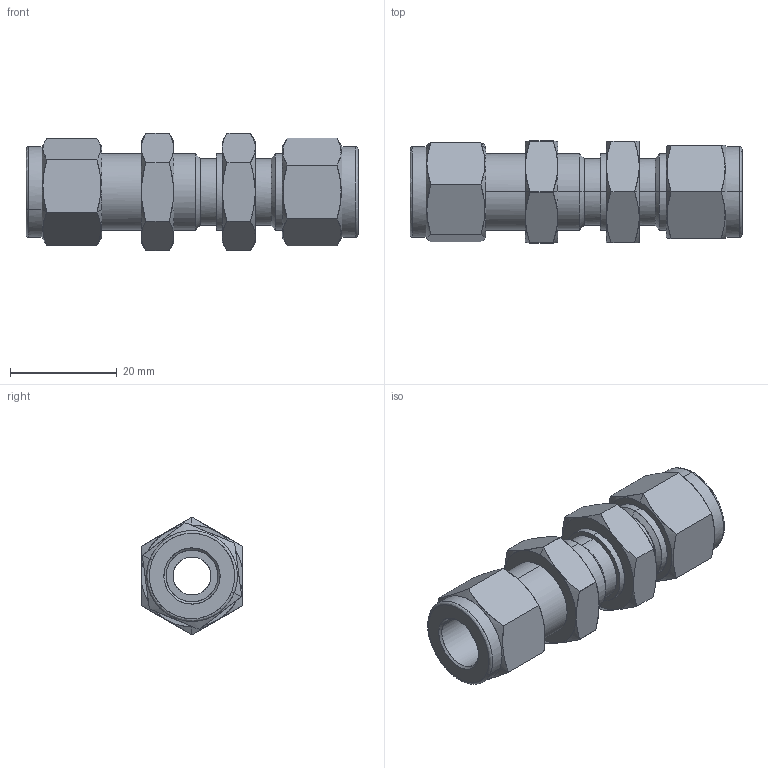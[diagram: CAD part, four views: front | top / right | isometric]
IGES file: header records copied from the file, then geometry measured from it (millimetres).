
Start section: Comment
Global section: file name: SBHU-6.igs; native system:  By UGS Corp.; preprocessor: XPlus GENERIC/IGES 3.0; author: Author; organization: Title; date: 20100528.112424; units: millimetre
Bounding box: 62.23 x 19.1 x 22 mm (x, y, z)
Surface area: 8384.5 mm2 (no closed solid volume)
Topology: 0 solids, 0 shells, 129 faces, 590 edges, 590 vertices
Faces by surface type: bspline 129
